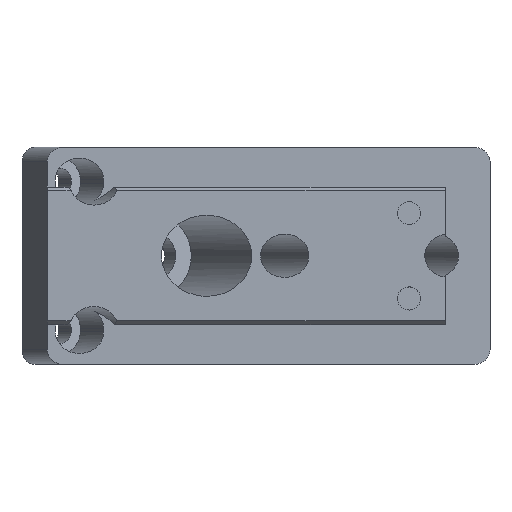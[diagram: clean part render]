
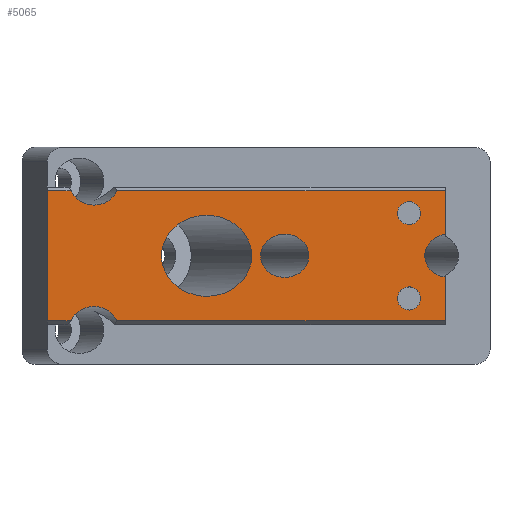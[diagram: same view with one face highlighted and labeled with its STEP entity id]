
A CAD part, top view. The second image highlights one B-rep face of the part: STEP entity #5065.
In plain terms, the highlighted planar face has unit normal (0, 0, 1).
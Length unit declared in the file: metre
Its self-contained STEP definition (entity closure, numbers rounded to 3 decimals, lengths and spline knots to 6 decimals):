
#264=ELLIPSE('',#5384,0.006231,0.0056);
#265=ELLIPSE('',#5385,0.003338,0.003);
#266=ELLIPSE('',#5388,0.003338,0.003);
#267=ELLIPSE('',#5389,0.003338,0.003);
#268=ELLIPSE('',#5390,0.003338,0.003);
#367=CIRCLE('',#5386,0.0016);
#368=CIRCLE('',#5387,0.0016);
#494=ORIENTED_EDGE('',*,*,#2050,.T.);
#495=ORIENTED_EDGE('',*,*,#2051,.T.);
#496=ORIENTED_EDGE('',*,*,#2052,.T.);
#497=ORIENTED_EDGE('',*,*,#2053,.T.);
#498=ORIENTED_EDGE('',*,*,#2054,.F.);
#499=ORIENTED_EDGE('',*,*,#2055,.T.);
#500=ORIENTED_EDGE('',*,*,#2056,.T.);
#501=ORIENTED_EDGE('',*,*,#2057,.T.);
#502=ORIENTED_EDGE('',*,*,#2058,.F.);
#503=ORIENTED_EDGE('',*,*,#2059,.T.);
#504=ORIENTED_EDGE('',*,*,#2060,.F.);
#505=ORIENTED_EDGE('',*,*,#2061,.T.);
#506=ORIENTED_EDGE('',*,*,#2062,.F.);
#507=ORIENTED_EDGE('',*,*,#2063,.T.);
#2050=EDGE_CURVE('',#2828,#2828,#264,.T.);
#2051=EDGE_CURVE('',#2829,#2829,#265,.T.);
#2052=EDGE_CURVE('',#2830,#2830,#367,.T.);
#2053=EDGE_CURVE('',#2831,#2831,#368,.T.);
#2054=EDGE_CURVE('',#2832,#2833,#266,.F.);
#2055=EDGE_CURVE('',#2832,#2834,#3332,.T.);
#2056=EDGE_CURVE('',#2834,#2835,#3333,.T.);
#2057=EDGE_CURVE('',#2835,#2836,#3334,.T.);
#2058=EDGE_CURVE('',#2837,#2836,#267,.F.);
#2059=EDGE_CURVE('',#2837,#2838,#3335,.T.);
#2060=EDGE_CURVE('',#2839,#2838,#3336,.T.);
#2061=EDGE_CURVE('',#2839,#2840,#268,.T.);
#2062=EDGE_CURVE('',#2841,#2840,#3337,.T.);
#2063=EDGE_CURVE('',#2841,#2833,#3338,.T.);
#2828=VERTEX_POINT('',#6929);
#2829=VERTEX_POINT('',#6931);
#2830=VERTEX_POINT('',#6933);
#2831=VERTEX_POINT('',#6935);
#2832=VERTEX_POINT('',#6937);
#2833=VERTEX_POINT('',#6938);
#2834=VERTEX_POINT('',#6940);
#2835=VERTEX_POINT('',#6942);
#2836=VERTEX_POINT('',#6944);
#2837=VERTEX_POINT('',#6946);
#2838=VERTEX_POINT('',#6948);
#2839=VERTEX_POINT('',#6950);
#2840=VERTEX_POINT('',#6952);
#2841=VERTEX_POINT('',#6954);
#3332=LINE('',#6939,#3811);
#3333=LINE('',#6941,#3812);
#3334=LINE('',#6943,#3813);
#3335=LINE('',#6947,#3814);
#3336=LINE('',#6949,#3815);
#3337=LINE('',#6953,#3816);
#3338=LINE('',#6955,#3817);
#3811=VECTOR('',#5774,1.);
#3812=VECTOR('',#5775,1.);
#3813=VECTOR('',#5776,1.);
#3814=VECTOR('',#5779,1.);
#3815=VECTOR('',#5780,1.);
#3816=VECTOR('',#5783,1.);
#3817=VECTOR('',#5784,1.);
#4277=EDGE_LOOP('',(#494));
#4278=EDGE_LOOP('',(#495));
#4279=EDGE_LOOP('',(#496));
#4280=EDGE_LOOP('',(#497));
#4281=EDGE_LOOP('',(#498,#499,#500,#501,#502,#503,#504,#505,#506,#507));
#4602=FACE_BOUND('',#4277,.T.);
#4603=FACE_BOUND('',#4278,.T.);
#4604=FACE_BOUND('',#4279,.T.);
#4605=FACE_BOUND('',#4280,.T.);
#4606=FACE_BOUND('',#4281,.T.);
#4919=PLANE('',#5383);
#5065=ADVANCED_FACE('',(#4602,#4603,#4604,#4605,#4606),#4919,.F.);
#5383=AXIS2_PLACEMENT_3D('',#6927,#5762,#5763);
#5384=AXIS2_PLACEMENT_3D('',#6928,#5764,#5765);
#5385=AXIS2_PLACEMENT_3D('',#6930,#5766,#5767);
#5386=AXIS2_PLACEMENT_3D('',#6932,#5768,#5769);
#5387=AXIS2_PLACEMENT_3D('',#6934,#5770,#5771);
#5388=AXIS2_PLACEMENT_3D('',#6936,#5772,#5773);
#5389=AXIS2_PLACEMENT_3D('',#6945,#5777,#5778);
#5390=AXIS2_PLACEMENT_3D('',#6951,#5781,#5782);
#5762=DIRECTION('',(0.,0.,-1.));
#5763=DIRECTION('',(-1.,0.,0.));
#5764=DIRECTION('',(0.,0.,-1.));
#5765=DIRECTION('',(-1.,0.,0.));
#5766=DIRECTION('',(0.,0.,-1.));
#5767=DIRECTION('',(-1.,0.,0.));
#5768=DIRECTION('',(0.,0.,-1.));
#5769=DIRECTION('',(-1.,0.,0.));
#5770=DIRECTION('',(0.,0.,-1.));
#5771=DIRECTION('',(-1.,0.,0.));
#5772=DIRECTION('',(0.,0.,-1.));
#5773=DIRECTION('',(-1.,0.,0.));
#5774=DIRECTION('',(-1.,0.,0.));
#5775=DIRECTION('',(0.,-1.,0.));
#5776=DIRECTION('',(1.,0.,0.));
#5777=DIRECTION('',(0.,0.,-1.));
#5778=DIRECTION('',(-1.,0.,0.));
#5779=DIRECTION('',(1.,0.,0.));
#5780=DIRECTION('',(0.,-1.,0.));
#5781=DIRECTION('',(0.,0.,-1.));
#5782=DIRECTION('',(-1.,0.,0.));
#5783=DIRECTION('',(0.,-1.,0.));
#5784=DIRECTION('',(-1.,0.,0.));
#6927=CARTESIAN_POINT('',(0.055,0.,0.0041));
#6928=CARTESIAN_POINT('',(0.022027,0.,0.0041));
#6929=CARTESIAN_POINT('',(0.015796,0.,0.0041));
#6930=CARTESIAN_POINT('',(0.032819,0.,0.0041));
#6931=CARTESIAN_POINT('',(0.029481,0.,0.0041));
#6932=CARTESIAN_POINT('',(0.05,0.0059,0.0041));
#6933=CARTESIAN_POINT('',(0.0484,0.0059,0.0041));
#6934=CARTESIAN_POINT('',(0.05,-0.0059,0.0041));
#6935=CARTESIAN_POINT('',(0.0484,-0.0059,0.0041));
#6936=CARTESIAN_POINT('',(0.00645,0.01,0.0041));
#6937=CARTESIAN_POINT('',(0.003301,0.009004,0.0041));
#6938=CARTESIAN_POINT('',(0.009599,0.009004,0.0041));
#6939=CARTESIAN_POINT('',(0.,0.009004,0.0041));
#6940=CARTESIAN_POINT('',(0.,0.009004,0.0041));
#6941=CARTESIAN_POINT('',(0.,0.,0.0041));
#6942=CARTESIAN_POINT('',(0.,-0.009004,0.0041));
#6943=CARTESIAN_POINT('',(0.055,-0.009004,0.0041));
#6944=CARTESIAN_POINT('',(0.003301,-0.009004,0.0041));
#6945=CARTESIAN_POINT('',(0.00645,-0.01,0.0041));
#6946=CARTESIAN_POINT('',(0.009599,-0.009004,0.0041));
#6947=CARTESIAN_POINT('',(0.055,-0.009004,0.0041));
#6948=CARTESIAN_POINT('',(0.055,-0.009004,0.0041));
#6949=CARTESIAN_POINT('',(0.055,0.,0.0041));
#6950=CARTESIAN_POINT('',(0.055,-0.002964,0.0041));
#6951=CARTESIAN_POINT('',(0.055516,0.,0.0041));
#6952=CARTESIAN_POINT('',(0.055,0.002964,0.0041));
#6953=CARTESIAN_POINT('',(0.055,0.,0.0041));
#6954=CARTESIAN_POINT('',(0.055,0.009004,0.0041));
#6955=CARTESIAN_POINT('',(0.,0.009004,0.0041));
